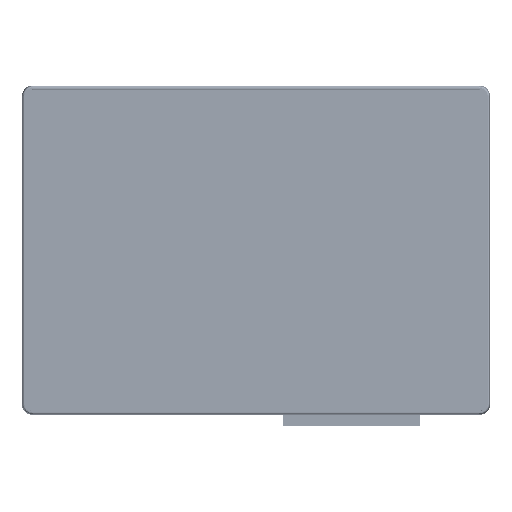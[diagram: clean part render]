
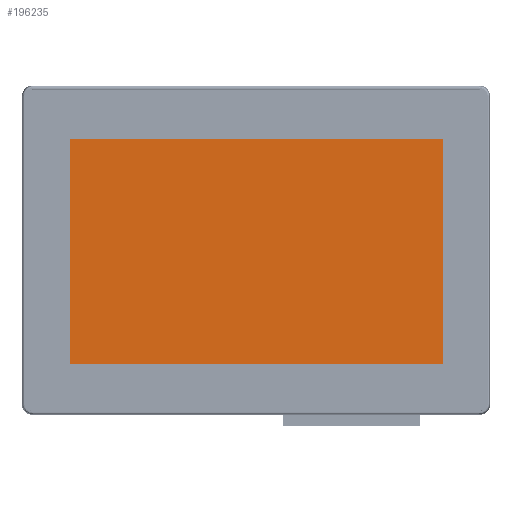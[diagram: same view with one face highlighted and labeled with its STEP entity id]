
A CAD part, top view. The second image highlights one B-rep face of the part: STEP entity #196235.
In plain terms, the highlighted planar face has unit normal (0, 0, 1).
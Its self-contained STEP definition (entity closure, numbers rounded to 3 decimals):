
#8887=PLANE('',#209636);
#17661=FACE_OUTER_BOUND('',#28171,.T.);
#28171=EDGE_LOOP('',(#160779,#160780,#160781,#160782));
#46206=LINE('',#333075,#67176);
#46209=LINE('',#333080,#67179);
#46210=LINE('',#333083,#67180);
#46211=LINE('',#333084,#67181);
#67176=VECTOR('',#249101,67.9);
#67179=VECTOR('',#249106,111.4);
#67180=VECTOR('',#249109,111.4);
#67181=VECTOR('',#249110,67.9);
#90265=VERTEX_POINT('',#333072);
#90266=VERTEX_POINT('',#333074);
#90267=VERTEX_POINT('',#333078);
#90268=VERTEX_POINT('',#333082);
#114844=EDGE_CURVE('',#90266,#90265,#46206,.T.);
#114847=EDGE_CURVE('',#90265,#90267,#46209,.T.);
#114848=EDGE_CURVE('',#90268,#90266,#46210,.T.);
#114849=EDGE_CURVE('',#90267,#90268,#46211,.T.);
#160779=ORIENTED_EDGE('',*,*,#114848,.T.);
#160780=ORIENTED_EDGE('',*,*,#114844,.T.);
#160781=ORIENTED_EDGE('',*,*,#114847,.T.);
#160782=ORIENTED_EDGE('',*,*,#114849,.T.);
#196235=ADVANCED_FACE('',(#17661),#8887,.T.);
#209636=AXIS2_PLACEMENT_3D('',#333081,#249107,#249108);
#249101=DIRECTION('',(0.,-1.,0.));
#249106=DIRECTION('',(1.,0.,0.));
#249107=DIRECTION('center_axis',(0.,0.,1.));
#249108=DIRECTION('ref_axis',(-1.,0.,0.));
#249109=DIRECTION('',(-1.,0.,0.));
#249110=DIRECTION('',(0.,1.,0.));
#333072=CARTESIAN_POINT('',(-55.7,-35.1,2.9));
#333074=CARTESIAN_POINT('',(-55.7,32.8,2.9));
#333075=CARTESIAN_POINT('',(-55.7,32.8,2.9));
#333078=CARTESIAN_POINT('',(55.7,-35.1,2.9));
#333080=CARTESIAN_POINT('',(-55.7,-35.1,2.9));
#333081=CARTESIAN_POINT('Origin',(0.,-2.2,2.9));
#333082=CARTESIAN_POINT('',(55.7,32.8,2.9));
#333083=CARTESIAN_POINT('',(55.7,32.8,2.9));
#333084=CARTESIAN_POINT('',(55.7,-35.1,2.9));
